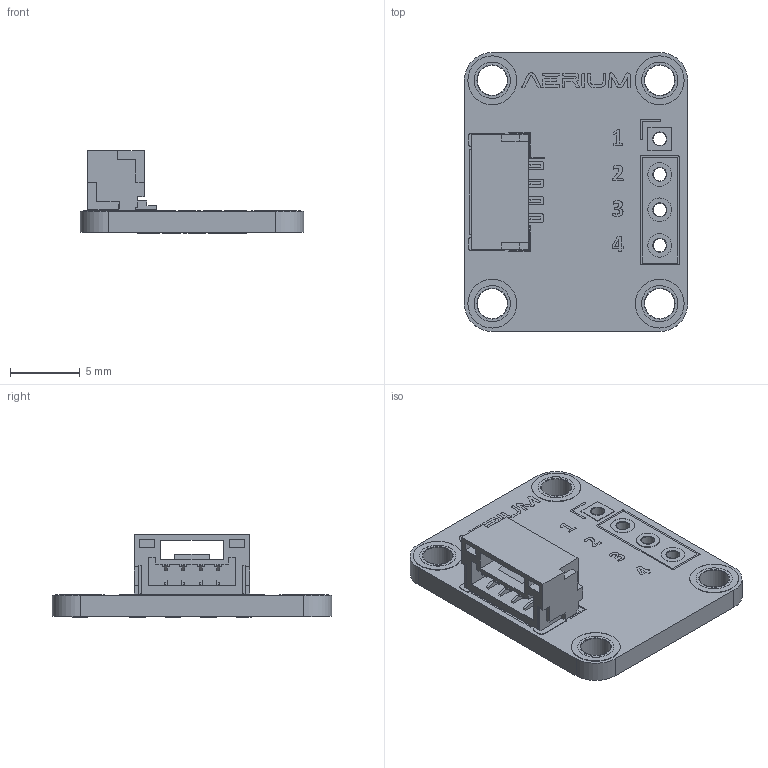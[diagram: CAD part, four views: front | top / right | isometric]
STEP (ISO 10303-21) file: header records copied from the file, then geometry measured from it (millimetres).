
FILE_DESCRIPTION(/* description */ ('KiCad electronic assembly'),/* implementation_level */ '2;1');
FILE_NAME(/* name */ 'SC014_Header_Cable_4P.step',/* time_stamp */ '2026-09-20T15:24:34+03:00',/* author */ (''),/* organization */ (''),/* preprocessor_version */ 'ST-DEVELOPER v20.1',/* originating_system */ 'Autodesk Translation Framework v15.8.0.0',/* authorisation */ '');
FILE_SCHEMA (('AUTOMOTIVE_DESIGN { 1 0 10303 214 3 1 1 }'));
Length unit declared in the file: millimetre
Products named in the file (6): 2026-09-20-12-24-04-343; 2026-09-20-12-24-04-344; 2026-09-20-12-24-04-346; 2026-09-20-12-24-04-347; 2026-09-20-12-24-04-348; 2026-09-20-12-24-04-349
Assembly tree (5 placements, depth 2):
  2026-09-20-12-24-04-343
    2026-09-20-12-24-04-344
    2026-09-20-12-24-04-346
    2026-09-20-12-24-04-347
    2026-09-20-12-24-04-348
    2026-09-20-12-24-04-349
Bounding box: 16 x 20 x 5.92 mm (x, y, z)
Volume: 539.3 mm3; surface area: 1377.1 mm2
Topology: 40 solids, 67 shells, 442 faces, 1690 edges, 1363 vertices
Faces by surface type: plane 344, cylinder 98
Full cylindrical faces by diameter (mm): 0.95 x12, 1 x8, 1.7 x6, 2.15 x20, 2.2 x8, 2.6 x8, 3.5 x8
Entity records: 18493 total; most frequent: CARTESIAN_POINT 3507, DIRECTION 2871, ORIENTED_EDGE 2661, EDGE_CURVE 1690, LINE 1417, VECTOR 1417, VERTEX_POINT 1363, AXIS2_PLACEMENT_3D 727
